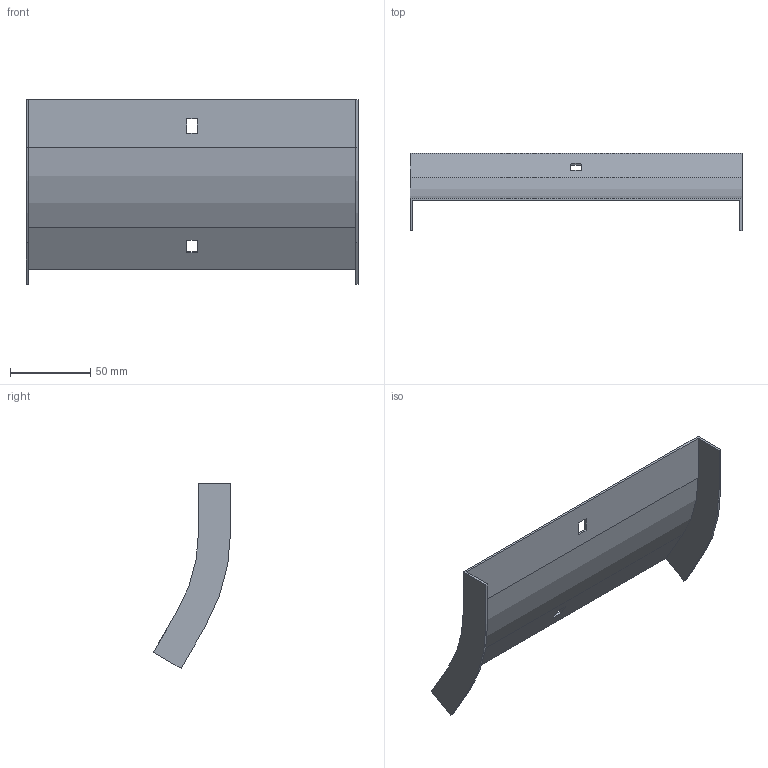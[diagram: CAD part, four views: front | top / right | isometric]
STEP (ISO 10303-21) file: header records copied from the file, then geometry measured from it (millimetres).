
FILE_DESCRIPTION (( 'STEP AP214' ), '1' );
FILE_NAME ('32G1P200.step', '2025-02-21T12:47:02', ( '' ), ( '' ), 'SwSTEP 2.0', 'SolidWorks 2023', '' );
FILE_SCHEMA (( 'AUTOMOTIVE_DESIGN' ));
Length unit declared in the file: millimetre
Products named in the file (1): 32G1P200
Bounding box: 207 x 48.2 x 115.23 mm (x, y, z)
Volume: 41095.1 mm3; surface area: 55983.4 mm2
Topology: 1 solids, 1 shells, 26 faces, 72 edges, 48 vertices
Faces by surface type: plane 22, cylinder 4
Entity records: 855 total; most frequent: CARTESIAN_POINT 147, ORIENTED_EDGE 144, DIRECTION 134, EDGE_CURVE 72, VECTOR 64, LINE 64, VERTEX_POINT 48, AXIS2_PLACEMENT_3D 35
